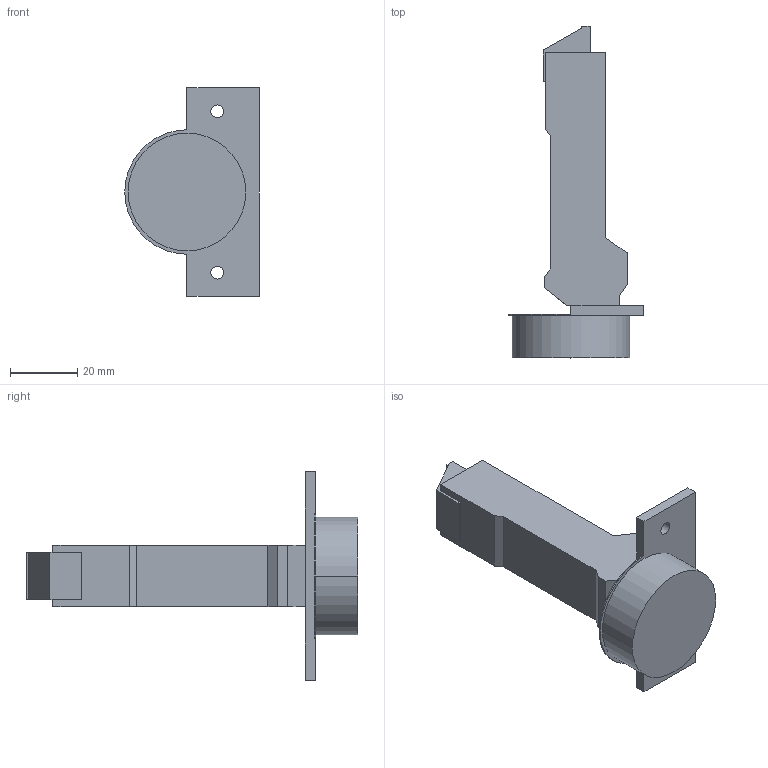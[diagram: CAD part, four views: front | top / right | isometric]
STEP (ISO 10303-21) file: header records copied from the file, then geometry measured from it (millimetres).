
FILE_DESCRIPTION (( 'STEP AP214' ), '1' );
FILE_NAME ('Scharnier TS Click-on 110° M_BB, K95.step', '2010-12-06T09:53:16', ( 'grass' ), ( '' ), 'SwSTEP 2.0', 'SolidWorks 2010', '' );
FILE_SCHEMA (( 'AUTOMOTIVE_DESIGN' ));
Length unit declared in the file: millimetre
Products named in the file (1): Scharnier TS Click-on 110° M_BB, K95
Bounding box: 40 x 98.7 x 62 mm (x, y, z)
Volume: 42111.2 mm3; surface area: 11782.9 mm2
Topology: 1 solids, 1 shells, 49 faces, 127 edges, 84 vertices
Faces by surface type: plane 36, cylinder 13
Entity records: 1533 total; most frequent: CARTESIAN_POINT 261, ORIENTED_EDGE 254, DIRECTION 253, EDGE_CURVE 127, VECTOR 101, LINE 101, VERTEX_POINT 84, AXIS2_PLACEMENT_3D 76
